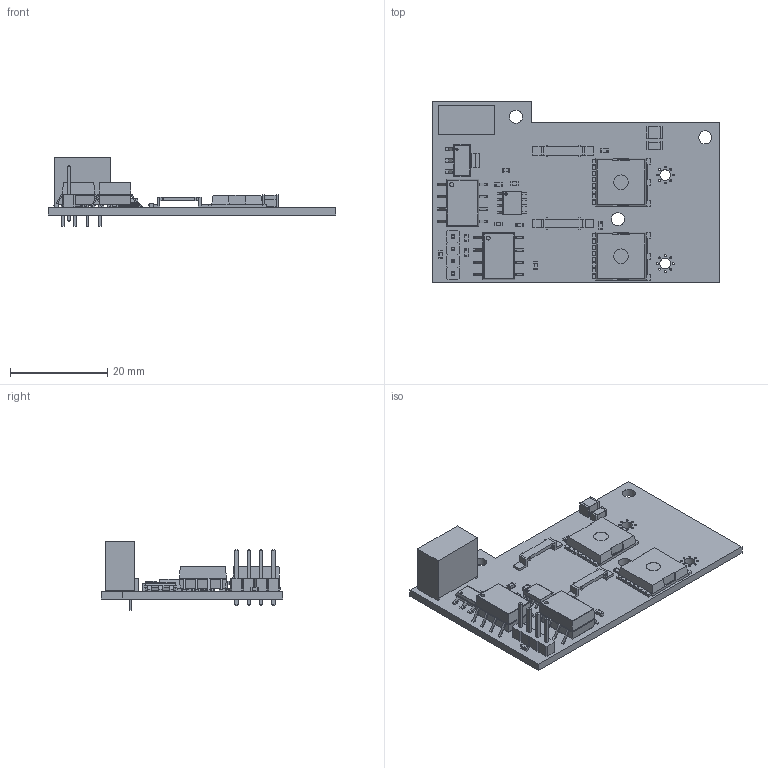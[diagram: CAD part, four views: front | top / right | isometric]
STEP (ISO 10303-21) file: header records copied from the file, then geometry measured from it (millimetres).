
FILE_DESCRIPTION(('KiCad electronic assembly'),'2;1');
FILE_NAME('singlePhasePower.step','2022-11-27T16:14:44',('An Author'),( 'A Company'),'Open CASCADE STEP processor 6.9', 'KiCad to STEP converter','Unknown');
FILE_SCHEMA(('AUTOMOTIVE_DESIGN { 1 0 10303 214 1 1 1 1 }'));
Length unit declared in the file: millimetre
Products named in the file (24): Open CASCADE STEP translator 6.9 1; S1621-46R; SOLID; C_0603_1608Metric; R_0603_1608Metric; PinHeader_1x04_P2.54mm_Vertical; TEA_1-0505; COMPOUND; AZ1117IH-5.0TRG1; 6N137S; FDBL86066-F085; IX4427NTR; C_1206_3216Metric; C_1210_3225Metric
Assembly tree (35 placements, depth 3):
  Open CASCADE STEP translator 6.9 1
    S1621-46R  x2
      SOLID
    C_0603_1608Metric  x5
      SOLID
    R_0603_1608Metric  x6
      SOLID
    PinHeader_1x04_P2.54mm_Vertical
      SOLID
    TEA_1-0505
      COMPOUND
    AZ1117IH-5.0TRG1
      COMPOUND
    6N137S  x2
      COMPOUND
    FDBL86066-F085  x2
      COMPOUND
    IX4427NTR
      COMPOUND
    C_1206_3216Metric
      SOLID
    C_1210_3225Metric
      SOLID
    COMPOUND
Bounding box: 59.25 x 37.5 x 14.2 mm (x, y, z)
Volume: 5153.9 mm3; surface area: 7311.6 mm2
Topology: 58 solids, 58 shells, 1380 faces, 3476 edges, 2236 vertices
Faces by surface type: plane 1095, cylinder 285
Full cylindrical faces by diameter (mm): 0.4 x16, 0.438 x1, 0.487 x1, 0.76 x4, 0.826 x2, 1 x4, 2.2 x2, 2.7 x3
Entity records: 53584 total; most frequent: CARTESIAN_POINT 9580, DIRECTION 7832, LINE 5428, VECTOR 5428, ORIENTED_EDGE 4040, PCURVE 4040, DEFINITIONAL_REPRESENTATION 4040, EDGE_CURVE 2020
